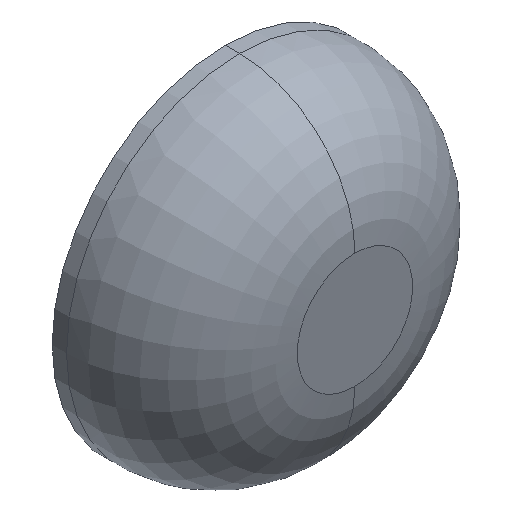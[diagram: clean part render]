
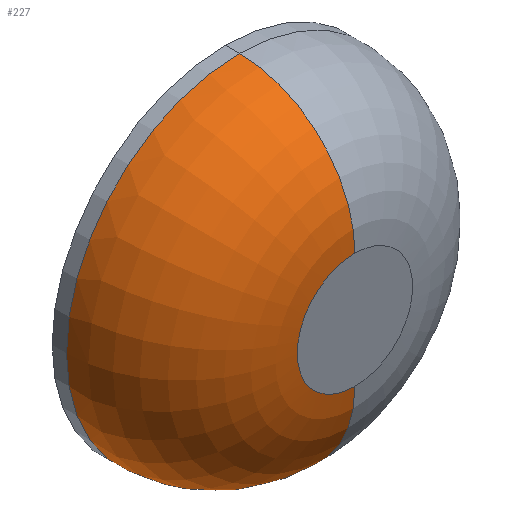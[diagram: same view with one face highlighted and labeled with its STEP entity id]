
A CAD part, isometric view. The second image highlights one B-rep face of the part: STEP entity #227.
In plain terms, the highlighted toroidal (fillet/blend) face has major radius 6.35 mm and minor radius 12.7 mm.
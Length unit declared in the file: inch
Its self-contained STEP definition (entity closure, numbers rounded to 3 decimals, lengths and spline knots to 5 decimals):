
#3 = EDGE_CURVE ( 'NONE', #121, #247, #313, .T. ) ;
#13 = CARTESIAN_POINT ( 'NONE',  ( 0., -0.062, 0.25 ) ) ;
#17 = CIRCLE ( 'NONE', #127, 0.5 ) ;
#31 = CARTESIAN_POINT ( 'NONE',  ( 0., -0.062, -0.25 ) ) ;
#35 = CARTESIAN_POINT ( 'NONE',  ( 0., -0.062, -0.75 ) ) ;
#42 = AXIS2_PLACEMENT_3D ( 'NONE', #312, #279, #306 ) ;
#57 = CARTESIAN_POINT ( 'NONE',  ( 0., -0.562, -0.25 ) ) ;
#58 = DIRECTION ( 'NONE',  ( 0., 0., 1. ) ) ;
#59 = DIRECTION ( 'NONE',  ( 0., 0., -1. ) ) ;
#75 = FACE_OUTER_BOUND ( 'NONE', #273, .T. ) ;
#88 = ORIENTED_EDGE ( 'NONE', *, *, #3, .T. ) ;
#104 = CIRCLE ( 'NONE', #164, 0.5 ) ;
#109 = EDGE_CURVE ( 'NONE', #246, #111, #134, .T. ) ;
#111 = VERTEX_POINT ( 'NONE', #57 ) ;
#121 = VERTEX_POINT ( 'NONE', #184 ) ;
#126 = DIRECTION ( 'NONE',  ( -1., 0., 0. ) ) ;
#127 = AXIS2_PLACEMENT_3D ( 'NONE', #13, #209, #59 ) ;
#128 = AXIS2_PLACEMENT_3D ( 'NONE', #207, #137, #319 ) ;
#134 = CIRCLE ( 'NONE', #42, 0.25 ) ;
#137 = DIRECTION ( 'NONE',  ( 0., -1., 0. ) ) ;
#158 = EDGE_CURVE ( 'NONE', #247, #111, #104, .T. ) ;
#164 = AXIS2_PLACEMENT_3D ( 'NONE', #31, #126, #58 ) ;
#172 = ORIENTED_EDGE ( 'NONE', *, *, #109, .F. ) ;
#184 = CARTESIAN_POINT ( 'NONE',  ( 0., -0.062, 0.75 ) ) ;
#193 = DIRECTION ( 'NONE',  ( 0., 0., -1. ) ) ;
#207 = CARTESIAN_POINT ( 'NONE',  ( 0., -0.062, 0. ) ) ;
#209 = DIRECTION ( 'NONE',  ( 1., 0., 0. ) ) ;
#211 = AXIS2_PLACEMENT_3D ( 'NONE', #221, #222, #193 ) ;
#221 = CARTESIAN_POINT ( 'NONE',  ( 0., -0.062, 0. ) ) ;
#222 = DIRECTION ( 'NONE',  ( 0., -1., 0. ) ) ;
#227 = ADVANCED_FACE ( 'NONE', ( #75 ), #301, .T. ) ;
#246 = VERTEX_POINT ( 'NONE', #266 ) ;
#247 = VERTEX_POINT ( 'NONE', #35 ) ;
#266 = CARTESIAN_POINT ( 'NONE',  ( 0., -0.562, 0.25 ) ) ;
#273 = EDGE_LOOP ( 'NONE', ( #326, #88, #297, #172 ) ) ;
#279 = DIRECTION ( 'NONE',  ( 0., -1., 0. ) ) ;
#281 = EDGE_CURVE ( 'NONE', #121, #246, #17, .T. ) ;
#297 = ORIENTED_EDGE ( 'NONE', *, *, #158, .T. ) ;
#301 = TOROIDAL_SURFACE ( 'NONE', #128, 0.25, 0.5 ) ;
#306 = DIRECTION ( 'NONE',  ( 0., 0., -1. ) ) ;
#312 = CARTESIAN_POINT ( 'NONE',  ( 0., -0.562, 0. ) ) ;
#313 = CIRCLE ( 'NONE', #211, 0.75 ) ;
#319 = DIRECTION ( 'NONE',  ( 0., 0., -1. ) ) ;
#326 = ORIENTED_EDGE ( 'NONE', *, *, #281, .F. ) ;
